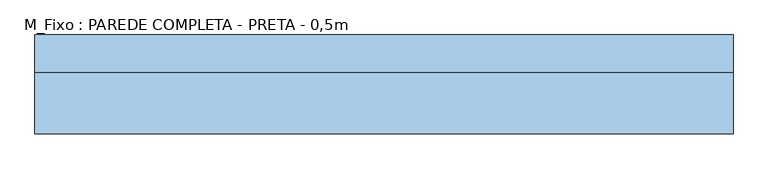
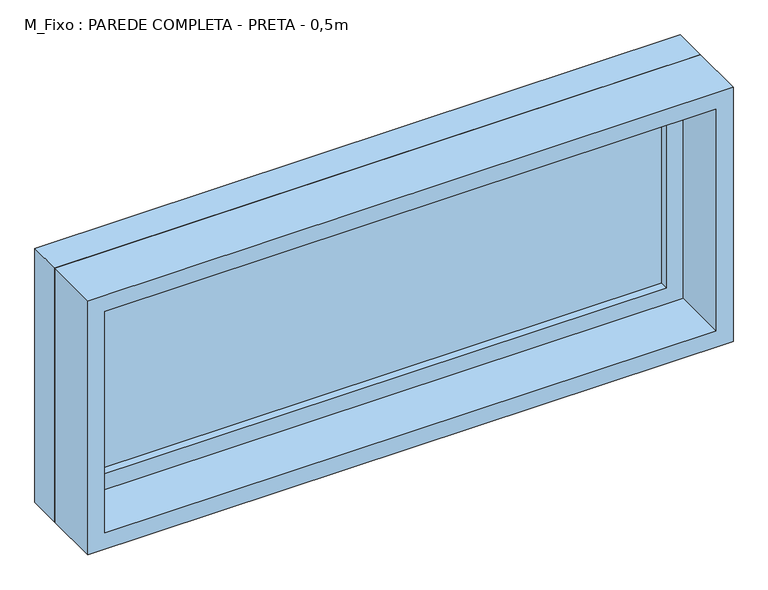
"""IFC4 building model written with IfcOpenShell, lengths in millimetres: window geometry, M_Fixo : PAREDE COMPLETA - PRETA - 0,5m."""

from ifc_helpers import new_model, si_unit, frame, origin, place, context, project, spatial, polyline, outline, extrude, source, transform, mapped, element, save


def m_fixo_parede_completa_preta_0_5m_8e5bfe81(model_context):
    return source(origin(), model_context, "Body", "SweptSolid", [
        extrude(outline(polyline([(-537.0, 62.0), (537.0, 62.0), (537.0, 50.0), (-537.0, 50.0), (-537.0, 62.0)])), frame((0.0, 0.0, 1563.0), z_axis=(0.0, 0.0, 1.0), x_axis=(1.0, 0.0, 0.0)), (0.0, 0.0, 1.0), 374.0),
        extrude(outline(polyline([(1981.0, -581.0), (1519.0, -581.0), (1519.0, 581.0), (1981.0, 581.0), (1981.0, -581.0)]), holes=[polyline([(1937.0, -537.0), (1937.0, 537.0), (1563.0, 537.0), (1563.0, -537.0), (1937.0, -537.0)])]), frame((0.0, 34.0, 0.0), z_axis=(0.0, 1.0, 0.0), x_axis=(0.0, 0.0, 1.0)), (0.0, 0.0, 1.0), 44.0),
        extrude(outline(polyline([(2000.0, -600.0), (1500.0, -600.0), (1500.0, 600.0), (2000.0, 600.0), (2000.0, -600.0)]), holes=[polyline([(1981.0, -581.0), (1981.0, 581.0), (1519.0, 581.0), (1519.0, -581.0), (1981.0, -581.0)])]), frame((0.0, 34.0, 0.0), z_axis=(0.0, 1.0, 0.0), x_axis=(0.0, 0.0, 1.0)), (0.0, 0.0, 1.0), 64.0),
        extrude(outline(polyline([(2000.0, -600.0), (1500.0, -600.0), (1500.0, 600.0), (2000.0, 600.0), (2000.0, -600.0)]), holes=[polyline([(1968.0, -568.0), (1968.0, 568.0), (1532.0, 568.0), (1532.0, -568.0), (1968.0, -568.0)])]), frame((0.0, -72.0, 0.0), z_axis=(0.0, 1.0, 0.0), x_axis=(0.0, 0.0, 1.0)), (0.0, 0.0, 1.0), 106.0),
    ])


if __name__ == "__main__":
    model = new_model("IFC4")
    model_context = context("Model", 3, world=origin())
    ifc_project = project(units=[si_unit("LENGTHUNIT", "METRE", prefix="MILLI")], contexts=[model_context])
    site = spatial("IfcSite", under=ifc_project)
    building = spatial("IfcBuilding", under=site)
    placement = place(None, origin())
    m_fixo_parede_completa_preta_0_5m_shape = m_fixo_parede_completa_preta_0_5m_8e5bfe81(model_context)
    element("IfcWindow", 1, ObjectType="M_Fixo : PAREDE COMPLETA - PRETA - 0,5m", at=placement, inside=building, context=model_context, shape_type="MappedRepresentation", body=[
        mapped(m_fixo_parede_completa_preta_0_5m_shape, transform((0.0, 0.0, 0.0), x_axis=(1.0, 0.0, 0.0), y_axis=(0.0, 1.0, 0.0), z_axis=(0.0, 0.0, 1.0))),
    ])
    save(model, "model.ifc")
